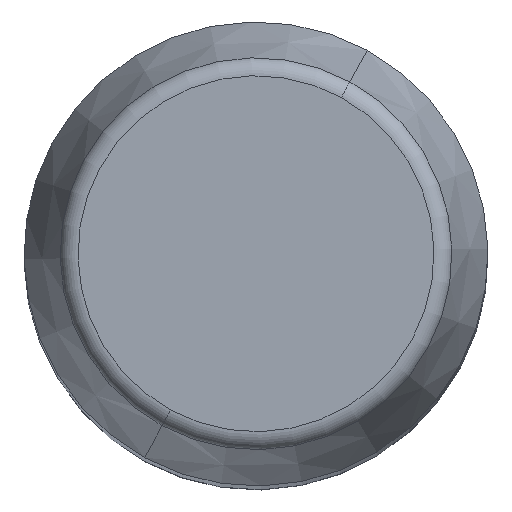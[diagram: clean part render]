
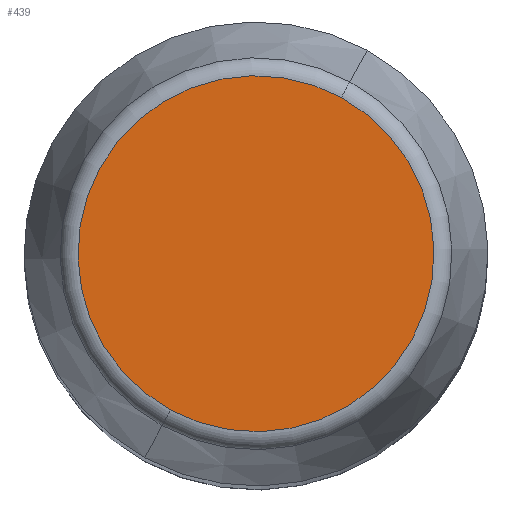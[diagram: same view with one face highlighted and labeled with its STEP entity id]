
A CAD part, top view. The second image highlights one B-rep face of the part: STEP entity #439.
In plain terms, the highlighted planar face has unit normal (0, 0, 1).
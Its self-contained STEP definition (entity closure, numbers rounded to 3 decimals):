
#391=CARTESIAN_POINT('Vertex',(-4.597,-8.415,140.)) ;
#394=CARTESIAN_POINT('Axis2P3D Location',(0.,0.,140.)) ;
#398=CARTESIAN_POINT('Vertex',(4.597,8.415,140.)) ;
#418=CARTESIAN_POINT('Axis2P3D Location',(0.,0.,140.)) ;
#430=CARTESIAN_POINT('Axis2P3D Location',(0.,9.589,140.)) ;
#395=DIRECTION('Axis2P3D Direction',(0.,0.,-1.)) ;
#419=DIRECTION('Axis2P3D Direction',(0.,0.,-1.)) ;
#431=DIRECTION('Axis2P3D Direction',(0.,0.,-1.)) ;
#432=DIRECTION('Axis2P3D XDirection',(1.,0.,0.)) ;
#396=AXIS2_PLACEMENT_3D('Circle Axis2P3D',#394,#395,$) ;
#420=AXIS2_PLACEMENT_3D('Circle Axis2P3D',#418,#419,$) ;
#433=AXIS2_PLACEMENT_3D('Plane Axis2P3D',#430,#431,#432) ;
#436=ORIENTED_EDGE('',*,*,#422,.F.) ;
#437=ORIENTED_EDGE('',*,*,#400,.F.) ;
#439=ADVANCED_FACE('PartBody',(#438),#434,.F.) ;
#397=CIRCLE('generated circle',#396,9.589) ;
#421=CIRCLE('generated circle',#420,9.589) ;
#400=EDGE_CURVE('',#392,#399,#397,.T.) ;
#422=EDGE_CURVE('',#399,#392,#421,.T.) ;
#435=EDGE_LOOP('',(#436,#437)) ;
#438=FACE_OUTER_BOUND('',#435,.T.) ;
#434=PLANE('Plane',#433) ;
#392=VERTEX_POINT('',#391) ;
#399=VERTEX_POINT('',#398) ;
